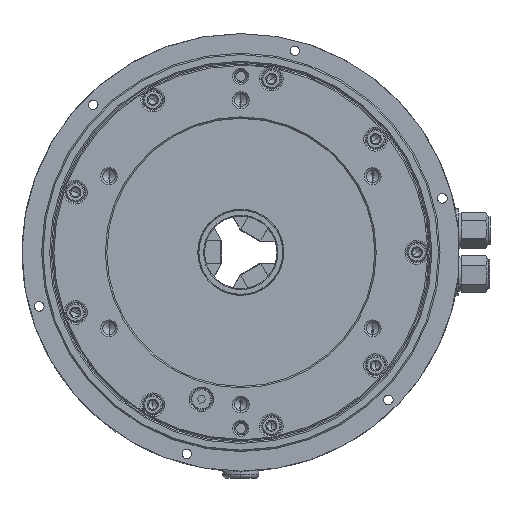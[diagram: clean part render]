
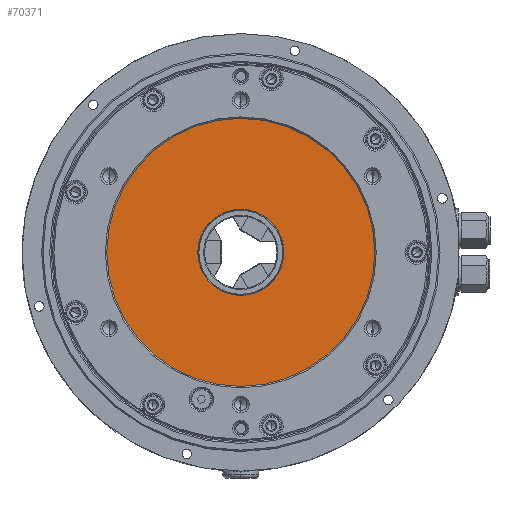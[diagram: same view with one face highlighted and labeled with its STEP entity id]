
A CAD part, left-side view. The second image highlights one B-rep face of the part: STEP entity #70371.
In plain terms, the highlighted planar face has unit normal (-1, 0, 0).
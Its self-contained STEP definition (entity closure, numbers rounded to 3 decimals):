
#740 = ORIENTED_EDGE ( 'NONE', *, *, #4070, .T. ) ;
#4070 = EDGE_CURVE ( 'NONE', #47786, #111936, #85355, .T. ) ;
#4095 = DIRECTION ( 'NONE',  ( 0., 0., -1. ) ) ;
#16336 = CARTESIAN_POINT ( 'NONE',  ( -133., 0., 0. ) ) ;
#18065 = PLANE ( 'NONE',  #123562 ) ;
#21847 = DIRECTION ( 'NONE',  ( 1., 0., 0. ) ) ;
#22052 = CIRCLE ( 'NONE', #100917, 29.7 ) ;
#22231 = EDGE_CURVE ( 'NONE', #117585, #43909, #54381, .T. ) ;
#25223 = AXIS2_PLACEMENT_3D ( 'NONE', #95226, #21847, #138246 ) ;
#28605 = DIRECTION ( 'NONE',  ( -1., 0., 0. ) ) ;
#35708 = EDGE_LOOP ( 'NONE', ( #132279, #740 ) ) ;
#43909 = VERTEX_POINT ( 'NONE', #53438 ) ;
#47786 = VERTEX_POINT ( 'NONE', #91774 ) ;
#49265 = CIRCLE ( 'NONE', #60553, 92.5 ) ;
#53438 = CARTESIAN_POINT ( 'NONE',  ( -133., 0., 92.5 ) ) ;
#54381 = CIRCLE ( 'NONE', #25223, 92.5 ) ;
#60553 = AXIS2_PLACEMENT_3D ( 'NONE', #65419, #122551, #4095 ) ;
#61009 = DIRECTION ( 'NONE',  ( 0., 0., 1. ) ) ;
#65419 = CARTESIAN_POINT ( 'NONE',  ( -133., 0., 0. ) ) ;
#70371 = ADVANCED_FACE ( 'NONE', ( #137917, #116765 ), #18065, .T. ) ;
#79685 = ORIENTED_EDGE ( 'NONE', *, *, #22231, .F. ) ;
#79831 = DIRECTION ( 'NONE',  ( 0., 0., -1. ) ) ;
#81086 = CARTESIAN_POINT ( 'NONE',  ( -133., 0., -29.7 ) ) ;
#85355 = CIRCLE ( 'NONE', #114691, 29.7 ) ;
#87757 = EDGE_CURVE ( 'NONE', #111936, #47786, #22052, .T. ) ;
#89340 = EDGE_CURVE ( 'NONE', #43909, #117585, #49265, .T. ) ;
#89952 = EDGE_LOOP ( 'NONE', ( #79685, #106118 ) ) ;
#91774 = CARTESIAN_POINT ( 'NONE',  ( -133., 0., 29.7 ) ) ;
#95226 = CARTESIAN_POINT ( 'NONE',  ( -133., 0., 0. ) ) ;
#100917 = AXIS2_PLACEMENT_3D ( 'NONE', #16336, #124909, #126312 ) ;
#101048 = DIRECTION ( 'NONE',  ( 1., 0., 0. ) ) ;
#103136 = CARTESIAN_POINT ( 'NONE',  ( -133., 0., 0. ) ) ;
#106118 = ORIENTED_EDGE ( 'NONE', *, *, #89340, .F. ) ;
#106207 = CARTESIAN_POINT ( 'NONE',  ( -133., 92.5, 0. ) ) ;
#111936 = VERTEX_POINT ( 'NONE', #81086 ) ;
#114691 = AXIS2_PLACEMENT_3D ( 'NONE', #103136, #101048, #79831 ) ;
#116765 = FACE_OUTER_BOUND ( 'NONE', #89952, .T. ) ;
#117585 = VERTEX_POINT ( 'NONE', #132091 ) ;
#122551 = DIRECTION ( 'NONE',  ( 1., 0., 0. ) ) ;
#123562 = AXIS2_PLACEMENT_3D ( 'NONE', #106207, #28605, #61009 ) ;
#124909 = DIRECTION ( 'NONE',  ( 1., 0., 0. ) ) ;
#126312 = DIRECTION ( 'NONE',  ( 0., 0., -1. ) ) ;
#132091 = CARTESIAN_POINT ( 'NONE',  ( -133., 0., -92.5 ) ) ;
#132279 = ORIENTED_EDGE ( 'NONE', *, *, #87757, .T. ) ;
#137917 = FACE_BOUND ( 'NONE', #35708, .T. ) ;
#138246 = DIRECTION ( 'NONE',  ( 0., 0., -1. ) ) ;
